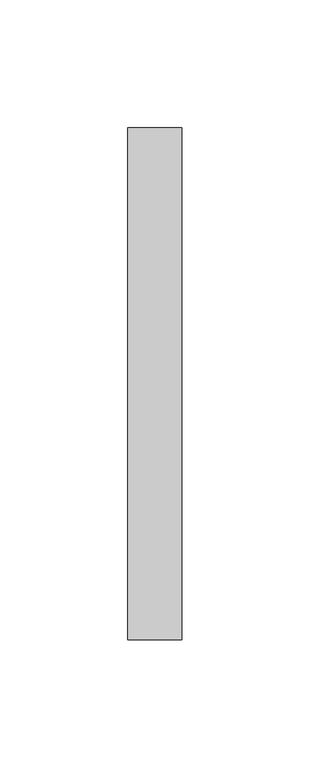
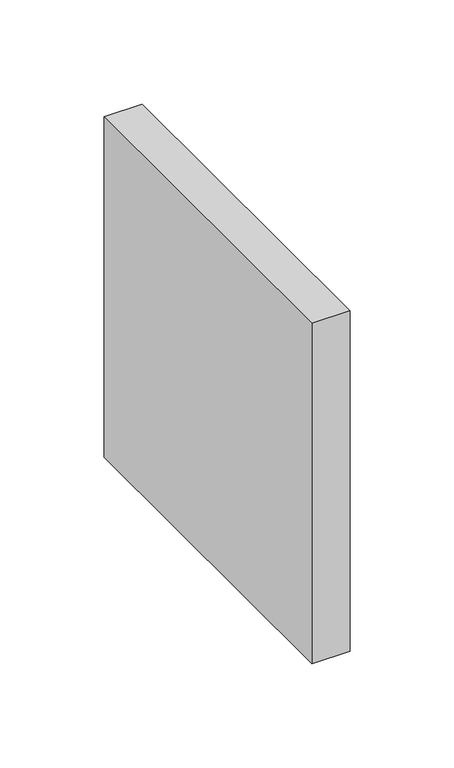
"""IFC4 building model written with IfcOpenShell, lengths in millimetres: duct fitting geometry, MEP_15.03 Injerto Conducte : Mínimo."""

from ifc_helpers import new_model, si_unit, frame, origin, place, context, project, spatial, polyline, outline, extrude, source, transform, mapped, element, save


def duct_fitting_ee17f9f2(model_context):
    return source(origin(), model_context, "Body", "SweptSolid", [
        extrude(outline(polyline([(-6.096, -100.0), (-6.096, 100.0), (15.0, 100.0), (15.0, -100.0), (-6.096, -100.0)])), frame((0.0, 0.0, -100.0), z_axis=(0.0, 0.0, 1.0), x_axis=(1.0, 0.0, 0.0)), (0.0, 0.0, 1.0), 200.0),
    ])


if __name__ == "__main__":
    model = new_model("IFC4")
    model_context = context("Model", 3, world=origin())
    ifc_project = project(units=[si_unit("LENGTHUNIT", "METRE", prefix="MILLI")], contexts=[model_context])
    site = spatial("IfcSite", under=ifc_project)
    building = spatial("IfcBuilding", under=site)
    placement = place(None, origin())
    duct_fitting_shape = duct_fitting_ee17f9f2(model_context)
    element("IfcDuctFitting", 1, ObjectType="MEP_15.03 Injerto Conducte : Mínimo", at=placement, inside=building, context=model_context, shape_type="MappedRepresentation", body=[
        mapped(duct_fitting_shape, transform((0.0, 0.0, 0.0), x_axis=(1.0, 0.0, 0.0), y_axis=(0.0, 1.0, 0.0), z_axis=(0.0, 0.0, 1.0))),
    ])
    save(model, "model.ifc")
